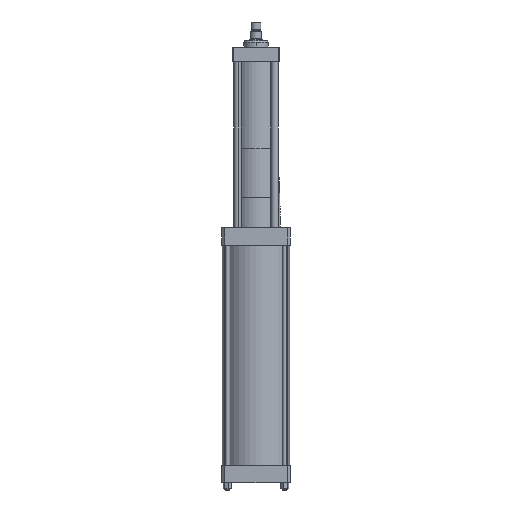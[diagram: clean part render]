
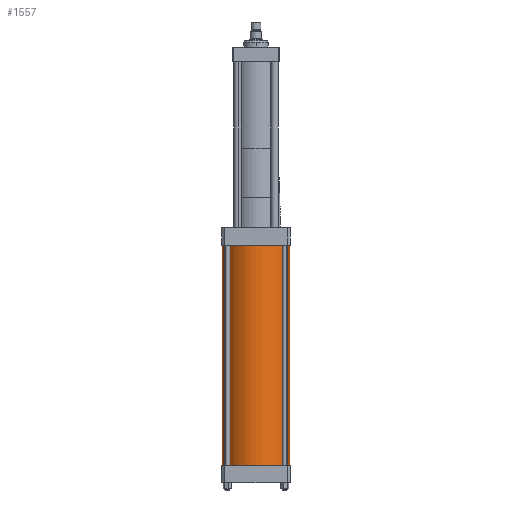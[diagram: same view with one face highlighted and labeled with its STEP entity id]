
A CAD part, front view. The second image highlights one B-rep face of the part: STEP entity #1557.
In plain terms, the highlighted cylindrical face has radius 55 mm (diameter 110 mm), a partial arc.
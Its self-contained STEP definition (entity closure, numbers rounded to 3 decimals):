
#47 = CARTESIAN_POINT ( 'NONE',  ( -55., 0., 180.5 ) ) ;
#60 = DIRECTION ( 'NONE',  ( 0., 0., 1. ) ) ;
#565 = CARTESIAN_POINT ( 'NONE',  ( 55., 0., 180.5 ) ) ;
#1129 = CARTESIAN_POINT ( 'NONE',  ( -55., 0., 180.5 ) ) ;
#1539 = DIRECTION ( 'NONE',  ( 0., 0., -1. ) ) ;
#1557 = ADVANCED_FACE ( 'NONE', ( #14320 ), #15705, .T. ) ;
#1847 = AXIS2_PLACEMENT_3D ( 'NONE', #3183, #1539, #7156 ) ;
#2229 = CIRCLE ( 'NONE', #4579, 55. ) ;
#2812 = CARTESIAN_POINT ( 'NONE',  ( -55., 0., -180.5 ) ) ;
#3183 = CARTESIAN_POINT ( 'NONE',  ( 0., 0., 180.5 ) ) ;
#4479 = CARTESIAN_POINT ( 'NONE',  ( 0., 0., -180.5 ) ) ;
#4579 = AXIS2_PLACEMENT_3D ( 'NONE', #4479, #60, #12583 ) ;
#4703 = EDGE_CURVE ( 'NONE', #7990, #4945, #7560, .T. ) ;
#4945 = VERTEX_POINT ( 'NONE', #16937 ) ;
#6050 = EDGE_CURVE ( 'NONE', #10056, #4945, #2229, .T. ) ;
#6180 = DIRECTION ( 'NONE',  ( 0., 0., -1. ) ) ;
#6748 = DIRECTION ( 'NONE',  ( 0., 0., -1. ) ) ;
#7120 = VECTOR ( 'NONE', #6180, 1000. ) ;
#7126 = EDGE_CURVE ( 'NONE', #12957, #7990, #16081, .T. ) ;
#7156 = DIRECTION ( 'NONE',  ( -1., 0., 0. ) ) ;
#7560 = LINE ( 'NONE', #565, #7120 ) ;
#7911 = DIRECTION ( 'NONE',  ( 1., 0., 0. ) ) ;
#7990 = VERTEX_POINT ( 'NONE', #9337 ) ;
#8136 = LINE ( 'NONE', #1129, #10559 ) ;
#8170 = ORIENTED_EDGE ( 'NONE', *, *, #4703, .F. ) ;
#9089 = ORIENTED_EDGE ( 'NONE', *, *, #6050, .T. ) ;
#9337 = CARTESIAN_POINT ( 'NONE',  ( 55., 0., 180.5 ) ) ;
#10056 = VERTEX_POINT ( 'NONE', #2812 ) ;
#10474 = EDGE_CURVE ( 'NONE', #12957, #10056, #8136, .T. ) ;
#10559 = VECTOR ( 'NONE', #6748, 1000. ) ;
#11083 = AXIS2_PLACEMENT_3D ( 'NONE', #16106, #11953, #7911 ) ;
#11953 = DIRECTION ( 'NONE',  ( 0., 0., 1. ) ) ;
#12583 = DIRECTION ( 'NONE',  ( 1., 0., 0. ) ) ;
#12957 = VERTEX_POINT ( 'NONE', #47 ) ;
#13836 = EDGE_LOOP ( 'NONE', ( #8170, #18229, #18054, #9089 ) ) ;
#14320 = FACE_OUTER_BOUND ( 'NONE', #13836, .T. ) ;
#15705 = CYLINDRICAL_SURFACE ( 'NONE', #1847, 55. ) ;
#16081 = CIRCLE ( 'NONE', #11083, 55. ) ;
#16106 = CARTESIAN_POINT ( 'NONE',  ( 0., 0., 180.5 ) ) ;
#16937 = CARTESIAN_POINT ( 'NONE',  ( 55., 0., -180.5 ) ) ;
#18054 = ORIENTED_EDGE ( 'NONE', *, *, #10474, .T. ) ;
#18229 = ORIENTED_EDGE ( 'NONE', *, *, #7126, .F. ) ;
